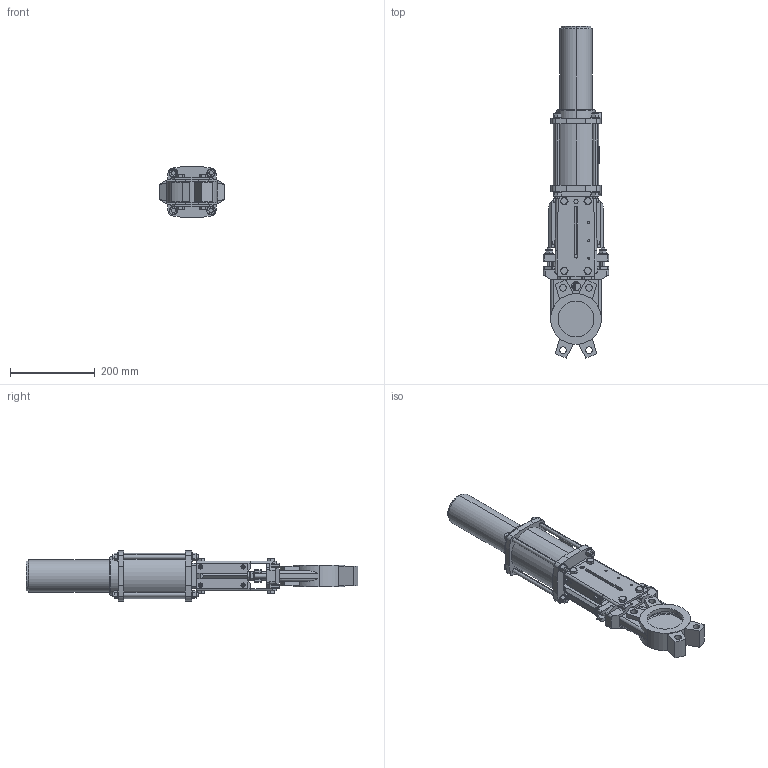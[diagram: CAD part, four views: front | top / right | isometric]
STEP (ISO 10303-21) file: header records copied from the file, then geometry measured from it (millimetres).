
FILE_DESCRIPTION (( 'STEP AP203' ), '1' );
FILE_NAME ('VG P N DN80.STEP', '2010-03-31T03:07:10', ( 'farex' ), ( '' ), 'SwSTEP 2.0', 'SolidWorks 2009', '' );
FILE_SCHEMA (( 'CONFIG_CONTROL_DESIGN' ));
Length unit declared in the file: millimetre
Products named in the file (1): VG P N DN80
Bounding box: 154 x 785.17 x 120 mm (x, y, z)
Volume: 2093598.6 mm3; surface area: 571298.2 mm2
Topology: 2 solids, 18 shells, 1072 faces, 2726 edges, 1778 vertices
Faces by surface type: plane 574, cylinder 317, cone 131, bspline 42, torus 8
Entity records: 35580 total; most frequent: CARTESIAN_POINT 9621, ORIENTED_EDGE 5452, DIRECTION 5207, EDGE_CURVE 2726, AXIS2_PLACEMENT_3D 1810, VERTEX_POINT 1778, VECTOR 1587, LINE 1587
